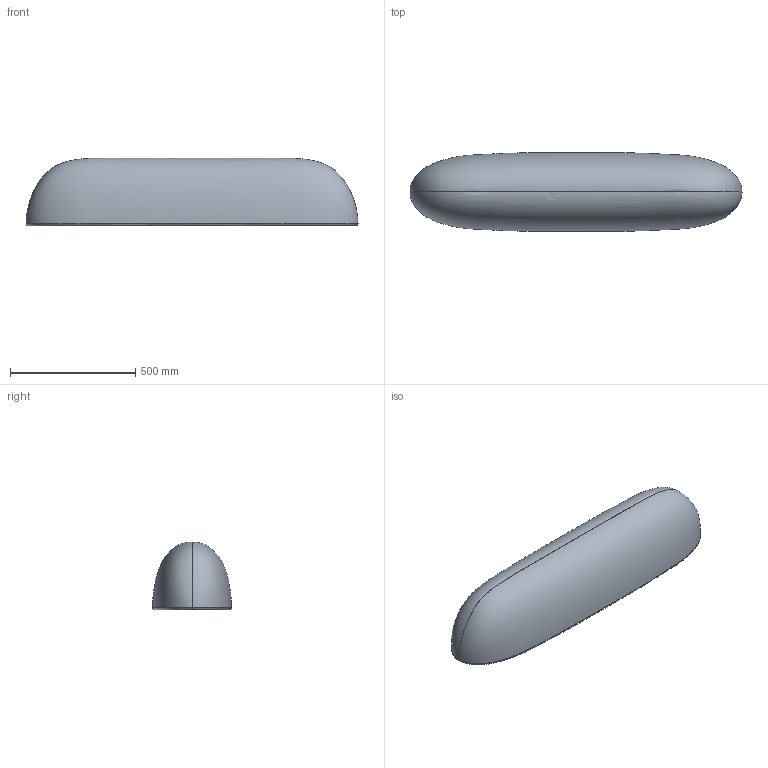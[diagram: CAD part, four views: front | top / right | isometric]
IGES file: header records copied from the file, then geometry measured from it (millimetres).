
Global section: file name: \\.psf\Host\disegni@MacProIntel\Carlo Alberto\Cuscini_imbottito a isola_SEGIS\1001_3d_15_1.igs; native system: Rhinoceros ( Apr  1 2010 ); preprocessor: Trout Lake IGES 012 Apr  1 2010; date: 100507.083117; units: millimetre
Bounding box: 1324.81 x 315.17 x 270.25 mm (x, y, z)
Surface area: 1250340.7 mm2 (no closed solid volume)
Topology: 0 solids, 0 shells, 5 faces, 676 edges, 733 vertices
Faces by surface type: bspline 5
